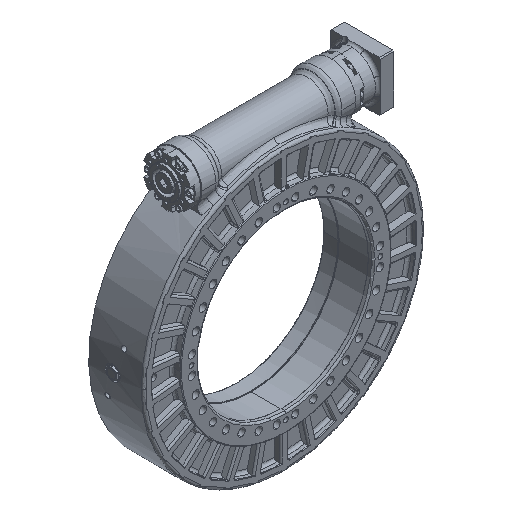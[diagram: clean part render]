
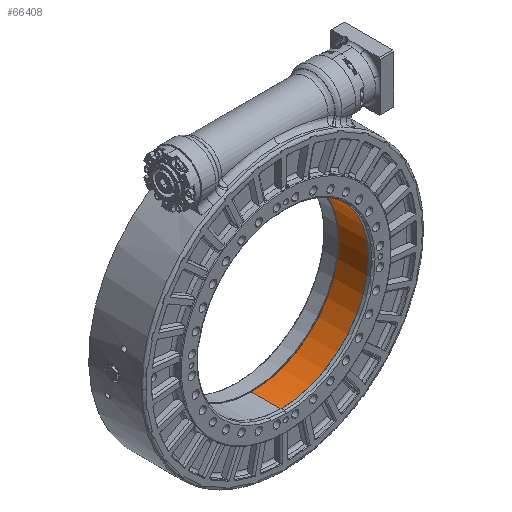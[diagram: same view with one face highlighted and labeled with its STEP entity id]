
A CAD part, isometric view. The second image highlights one B-rep face of the part: STEP entity #66408.
In plain terms, the highlighted cylindrical face has radius 261.5 mm (diameter 523 mm), a partial arc.
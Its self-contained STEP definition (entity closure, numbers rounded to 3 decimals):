
#1261 = LINE ( 'NONE', #34115, #66105 ) ;
#3363 = CARTESIAN_POINT ( 'NONE',  ( 0., 77.5, 0. ) ) ;
#5186 = ORIENTED_EDGE ( 'NONE', *, *, #62124, .T. ) ;
#6052 = EDGE_CURVE ( 'NONE', #54430, #93575, #1261, .T. ) ;
#7741 = CARTESIAN_POINT ( 'NONE',  ( 0., -10., 0. ) ) ;
#10455 = DIRECTION ( 'NONE',  ( 0., 1., 0. ) ) ;
#11189 = CIRCLE ( 'NONE', #104867, 261.5 ) ;
#12435 = CARTESIAN_POINT ( 'NONE',  ( 0., -10., -261.5 ) ) ;
#13032 = CIRCLE ( 'NONE', #65827, 261.5 ) ;
#14455 = DIRECTION ( 'NONE',  ( 0., 1., 0. ) ) ;
#15945 = ORIENTED_EDGE ( 'NONE', *, *, #81220, .T. ) ;
#21220 = EDGE_CURVE ( 'NONE', #98540, #87178, #85559, .T. ) ;
#21930 = CARTESIAN_POINT ( 'NONE',  ( 0., -10., -261.5 ) ) ;
#27756 = DIRECTION ( 'NONE',  ( 0., 1., 0. ) ) ;
#28804 = DIRECTION ( 'NONE',  ( 0., 0., 1. ) ) ;
#33802 = DIRECTION ( 'NONE',  ( 1., 0., 0. ) ) ;
#34115 = CARTESIAN_POINT ( 'NONE',  ( 0., -10., 261.5 ) ) ;
#38015 = CYLINDRICAL_SURFACE ( 'NONE', #46489, 261.5 ) ;
#40112 = DIRECTION ( 'NONE',  ( 0., 1., 0. ) ) ;
#45755 = VERTEX_POINT ( 'NONE', #12435 ) ;
#46489 = AXIS2_PLACEMENT_3D ( 'NONE', #7741, #40112, #62619 ) ;
#51914 = EDGE_CURVE ( 'NONE', #45755, #87178, #102435, .T. ) ;
#51937 = CARTESIAN_POINT ( 'NONE',  ( 261.5, 77.5, 0. ) ) ;
#54430 = VERTEX_POINT ( 'NONE', #55389 ) ;
#54880 = AXIS2_PLACEMENT_3D ( 'NONE', #3363, #27756, #101891 ) ;
#55389 = CARTESIAN_POINT ( 'NONE',  ( 0., -10., 261.5 ) ) ;
#57111 = DIRECTION ( 'NONE',  ( 0., 1., 0. ) ) ;
#59866 = CARTESIAN_POINT ( 'NONE',  ( 0., 77.5, -261.5 ) ) ;
#60390 = ORIENTED_EDGE ( 'NONE', *, *, #51914, .F. ) ;
#62124 = EDGE_CURVE ( 'NONE', #93575, #98540, #11189, .T. ) ;
#62619 = DIRECTION ( 'NONE',  ( 0., 0., 1. ) ) ;
#62906 = ORIENTED_EDGE ( 'NONE', *, *, #21220, .T. ) ;
#65827 = AXIS2_PLACEMENT_3D ( 'NONE', #67844, #75318, #28804 ) ;
#66105 = VECTOR ( 'NONE', #57111, 1000. ) ;
#66408 = ADVANCED_FACE ( 'NONE', ( #87657 ), #38015, .F. ) ;
#67844 = CARTESIAN_POINT ( 'NONE',  ( 0., -10., 0. ) ) ;
#75318 = DIRECTION ( 'NONE',  ( 0., -1., 0. ) ) ;
#77079 = VECTOR ( 'NONE', #14455, 1000. ) ;
#81220 = EDGE_CURVE ( 'NONE', #45755, #54430, #13032, .T. ) ;
#85559 = CIRCLE ( 'NONE', #54880, 261.5 ) ;
#85620 = EDGE_LOOP ( 'NONE', ( #60390, #15945, #86094, #5186, #62906 ) ) ;
#86094 = ORIENTED_EDGE ( 'NONE', *, *, #6052, .T. ) ;
#87178 = VERTEX_POINT ( 'NONE', #59866 ) ;
#87657 = FACE_OUTER_BOUND ( 'NONE', #85620, .T. ) ;
#90134 = CARTESIAN_POINT ( 'NONE',  ( 0., 77.5, 261.5 ) ) ;
#93575 = VERTEX_POINT ( 'NONE', #90134 ) ;
#98540 = VERTEX_POINT ( 'NONE', #51937 ) ;
#99443 = CARTESIAN_POINT ( 'NONE',  ( 0., 77.5, 0. ) ) ;
#101891 = DIRECTION ( 'NONE',  ( 1., 0., 0. ) ) ;
#102435 = LINE ( 'NONE', #21930, #77079 ) ;
#104867 = AXIS2_PLACEMENT_3D ( 'NONE', #99443, #10455, #33802 ) ;
